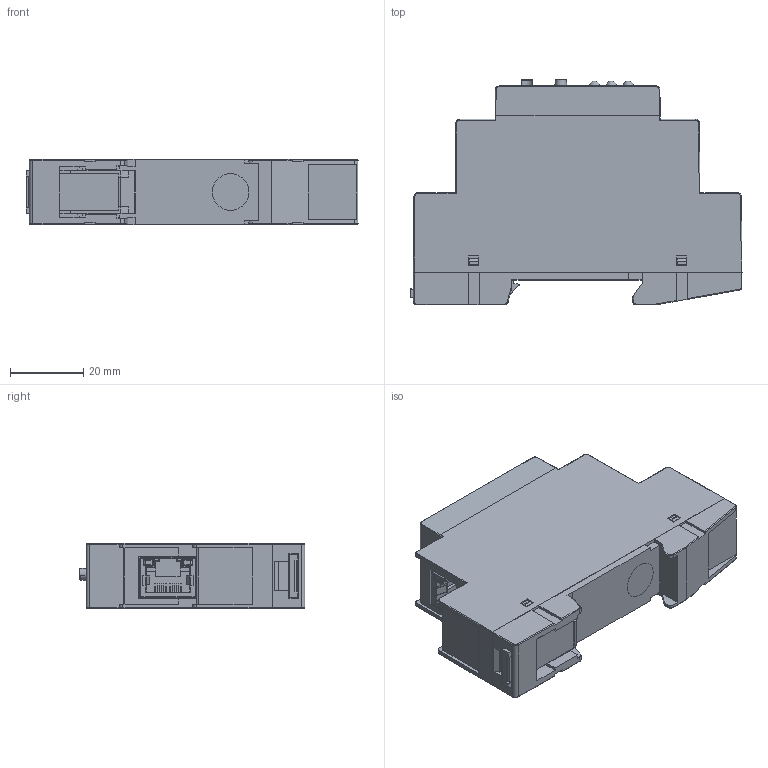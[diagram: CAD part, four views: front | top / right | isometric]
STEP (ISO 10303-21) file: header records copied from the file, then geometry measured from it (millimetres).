
FILE_DESCRIPTION(/* description */ (''),/* implementation_level */ '2;1');
FILE_NAME(/* name */ 'KNX_IP_Interface_731.stp',/* time_stamp */ '2020-10-29T14:23:39+01:00',/* author */ (''),/* organization */ (''),/* preprocessor_version */ 'ST-DEVELOPER v18.1',/* originating_system */ 'Autodesk Inventor 2021',/* authorisation */ '');
FILE_SCHEMA (('AUTOMOTIVE_DESIGN { 1 0 10303 214 3 1 1 }'));
Length unit declared in the file: millimetre
Products named in the file (1): KNX_IP_Interface_731
Bounding box: 90.7 x 61.7 x 17.8 mm (x, y, z)
Volume: 69675.7 mm3; surface area: 17840.9 mm2
Topology: 1 solids, 1 shells, 923 faces, 2436 edges, 1538 vertices
Faces by surface type: plane 575, cylinder 255, torus 33, sphere 22, bspline 20, cone 18
Full cylindrical faces by diameter (mm): 2.8 x1, 3.8 x2, 4.5 x1, 10 x1
Entity records: 29810 total; most frequent: CARTESIAN_POINT 5812, ORIENTED_EDGE 4846, DIRECTION 4702, EDGE_CURVE 2423, LINE 1806, VECTOR 1806, VERTEX_POINT 1538, AXIS2_PLACEMENT_3D 1448
